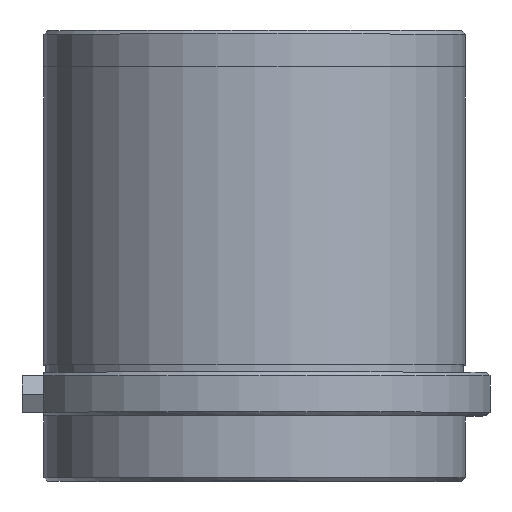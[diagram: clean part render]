
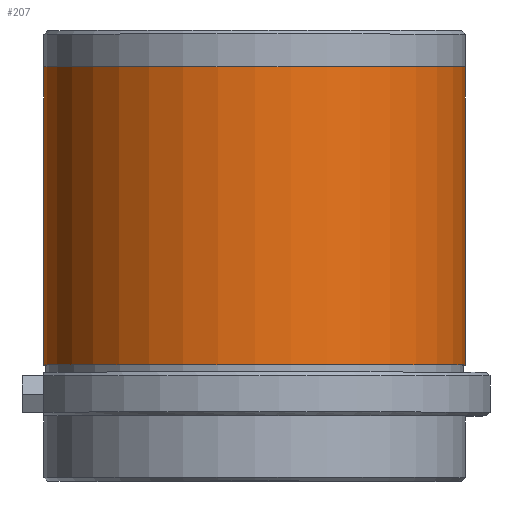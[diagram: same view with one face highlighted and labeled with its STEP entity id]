
A CAD part, top view. The second image highlights one B-rep face of the part: STEP entity #207.
In plain terms, the highlighted cylindrical face has radius 29 mm (diameter 58 mm), a full revolution.
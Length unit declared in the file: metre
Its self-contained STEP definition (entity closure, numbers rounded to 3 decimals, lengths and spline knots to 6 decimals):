
#207 = ADVANCED_FACE( '', ( #311, #312 ), #313, .T. );
#311 = FACE_OUTER_BOUND( '', #442, .T. );
#312 = FACE_OUTER_BOUND( '', #443, .T. );
#313 = CYLINDRICAL_SURFACE( '', #444, 0.029 );
#442 = EDGE_LOOP( '', ( #1821 ) );
#443 = EDGE_LOOP( '', ( #1822 ) );
#444 = AXIS2_PLACEMENT_3D( '', #1823, #1824, #1825 );
#1821 = ORIENTED_EDGE( '', *, *, #1963, .T. );
#1822 = ORIENTED_EDGE( '', *, *, #1964, .F. );
#1823 = CARTESIAN_POINT( '', ( 0., 0., 0. ) );
#1824 = DIRECTION( '', ( 0., 1., 0. ) );
#1825 = DIRECTION( '', ( 0., 0., -1. ) );
#1963 = EDGE_CURVE( '', #2084, #2084, #2085, .T. );
#1964 = EDGE_CURVE( '', #2086, #2086, #2087, .T. );
#2084 = VERTEX_POINT( '', #2291 );
#2085 = CIRCLE( '', #2292, 0.029 );
#2086 = VERTEX_POINT( '', #2293 );
#2087 = CIRCLE( '', #2294, 0.029 );
#2291 = CARTESIAN_POINT( '', ( 0., 0.048, -0.029 ) );
#2292 = AXIS2_PLACEMENT_3D( '', #3262, #3263, #3264 );
#2293 = CARTESIAN_POINT( '', ( 0., 0.007, -0.029 ) );
#2294 = AXIS2_PLACEMENT_3D( '', #3265, #3266, #3267 );
#3262 = CARTESIAN_POINT( '', ( 0., 0.048, 0. ) );
#3263 = DIRECTION( '', ( 0., -1., 0. ) );
#3264 = DIRECTION( '', ( 0., 0., -1. ) );
#3265 = CARTESIAN_POINT( '', ( 0., 0.007, 0. ) );
#3266 = DIRECTION( '', ( 0., -1., 0. ) );
#3267 = DIRECTION( '', ( 0., 0., -1. ) );
